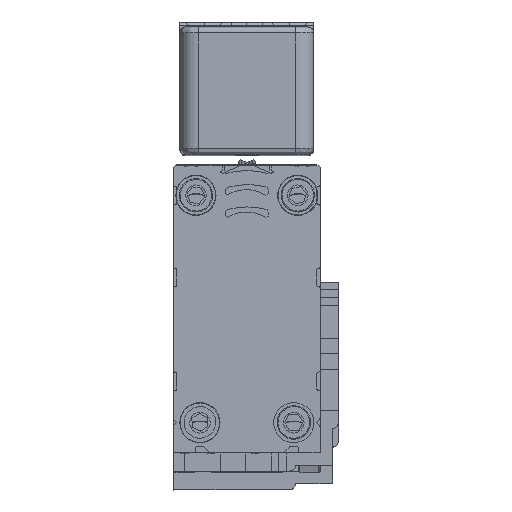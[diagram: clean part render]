
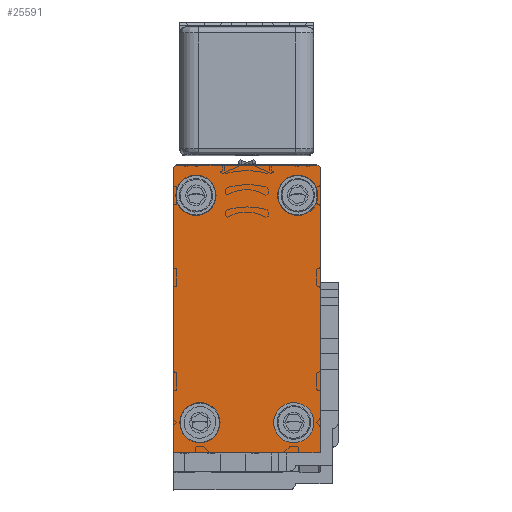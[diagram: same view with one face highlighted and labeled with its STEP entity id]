
A CAD part, top view. The second image highlights one B-rep face of the part: STEP entity #25591.
In plain terms, the highlighted planar face has unit normal (0, 0, 1).
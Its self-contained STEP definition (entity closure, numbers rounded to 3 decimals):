
#133 = CARTESIAN_POINT ( 'NONE',  ( -0.967, 21.401, 3185. ) ) ;
#134 = ORIENTED_EDGE ( 'NONE', *, *, #17795, .T. ) ;
#980 = EDGE_CURVE ( 'NONE', #23639, #25160, #4287, .T. ) ;
#1016 = EDGE_CURVE ( 'NONE', #11923, #10541, #14412, .T. ) ;
#1444 = CIRCLE ( 'NONE', #4757, 3.302 ) ;
#1457 = ORIENTED_EDGE ( 'NONE', *, *, #13294, .T. ) ;
#1537 = CARTESIAN_POINT ( 'NONE',  ( 1.676, -15.887, 3185. ) ) ;
#1599 = CARTESIAN_POINT ( 'NONE',  ( -17.514, 26.371, 3185. ) ) ;
#1848 = EDGE_LOOP ( 'NONE', ( #27638, #22432 ) ) ;
#2090 = AXIS2_PLACEMENT_3D ( 'NONE', #8884, #23949, #11049 ) ;
#2945 = CARTESIAN_POINT ( 'NONE',  ( 5.984, 25.871, 3185. ) ) ;
#2954 = ORIENTED_EDGE ( 'NONE', *, *, #10048, .T. ) ;
#2962 = CARTESIAN_POINT ( 'NONE',  ( 1.676, -15.887, 3185. ) ) ;
#3222 = VECTOR ( 'NONE', #20372, 1000. ) ;
#3712 = DIRECTION ( 'NONE',  ( -1., 0., 0. ) ) ;
#3781 = DIRECTION ( 'NONE',  ( 0., 1., 0. ) ) ;
#4032 = AXIS2_PLACEMENT_3D ( 'NONE', #23449, #10549, #25638 ) ;
#4287 = LINE ( 'NONE', #24516, #20126 ) ;
#4332 = CARTESIAN_POINT ( 'NONE',  ( 5.485, 26.371, 3185. ) ) ;
#4477 = VERTEX_POINT ( 'NONE', #10012 ) ;
#4638 = VERTEX_POINT ( 'NONE', #12721 ) ;
#4745 = ORIENTED_EDGE ( 'NONE', *, *, #22496, .T. ) ;
#4757 = AXIS2_PLACEMENT_3D ( 'NONE', #25373, #12445, #27539 ) ;
#4789 = EDGE_CURVE ( 'NONE', #21942, #26512, #20108, .T. ) ;
#4956 = CARTESIAN_POINT ( 'NONE',  ( -14.365, 21.401, 3185. ) ) ;
#5109 = CARTESIAN_POINT ( 'NONE',  ( -1.626, -15.887, 3185. ) ) ;
#5124 = DIRECTION ( 'NONE',  ( -1., 0., 0. ) ) ;
#5204 = CARTESIAN_POINT ( 'NONE',  ( 5.485, 25.871, 3185. ) ) ;
#5316 = CARTESIAN_POINT ( 'NONE',  ( 5.984, 7.11, 3185. ) ) ;
#5521 = VECTOR ( 'NONE', #3781, 1000. ) ;
#5904 = CARTESIAN_POINT ( 'NONE',  ( -17.017, -15.887, 3185. ) ) ;
#7102 = CARTESIAN_POINT ( 'NONE',  ( -10.412, -15.887, 3185. ) ) ;
#7142 = DIRECTION ( 'NONE',  ( -1., 0., 0. ) ) ;
#7364 = ORIENTED_EDGE ( 'NONE', *, *, #26500, .T. ) ;
#7366 = CARTESIAN_POINT ( 'NONE',  ( 5.984, -20.888, 3185. ) ) ;
#7376 = DIRECTION ( 'NONE',  ( 0., 1., 0. ) ) ;
#7729 = EDGE_CURVE ( 'NONE', #27658, #9530, #12205, .T. ) ;
#7857 = DIRECTION ( 'NONE',  ( 0., 0., -1. ) ) ;
#8305 = AXIS2_PLACEMENT_3D ( 'NONE', #2962, #18021, #5124 ) ;
#8791 = DIRECTION ( 'NONE',  ( -1., 0., 0. ) ) ;
#8884 = CARTESIAN_POINT ( 'NONE',  ( -13.714, -15.887, 3185. ) ) ;
#9007 = FACE_OUTER_BOUND ( 'NONE', #23100, .T. ) ;
#9144 = CARTESIAN_POINT ( 'NONE',  ( 5.485, 26.371, 3185. ) ) ;
#9163 = EDGE_CURVE ( 'NONE', #18374, #21942, #12131, .T. ) ;
#9285 = CARTESIAN_POINT ( 'NONE',  ( -17.667, 21.401, 3185. ) ) ;
#9288 = CIRCLE ( 'NONE', #20249, 3.302 ) ;
#9530 = VERTEX_POINT ( 'NONE', #20029 ) ;
#9583 = DIRECTION ( 'NONE',  ( 0., 0., -1. ) ) ;
#10012 = CARTESIAN_POINT ( 'NONE',  ( -11.063, 21.401, 3185. ) ) ;
#10048 = EDGE_CURVE ( 'NONE', #4638, #18381, #9288, .T. ) ;
#10318 = FACE_BOUND ( 'NONE', #20382, .T. ) ;
#10355 = CIRCLE ( 'NONE', #26150, 3.302 ) ;
#10382 = CIRCLE ( 'NONE', #17987, 0.5 ) ;
#10516 = VERTEX_POINT ( 'NONE', #9285 ) ;
#10541 = VERTEX_POINT ( 'NONE', #7102 ) ;
#10549 = DIRECTION ( 'NONE',  ( 0., 0., -1. ) ) ;
#10837 = CARTESIAN_POINT ( 'NONE',  ( -18.014, -20.888, 3185. ) ) ;
#11049 = DIRECTION ( 'NONE',  ( -1., 0., 0. ) ) ;
#11236 = ORIENTED_EDGE ( 'NONE', *, *, #4789, .T. ) ;
#11731 = CARTESIAN_POINT ( 'NONE',  ( 2.335, 21.401, 3185. ) ) ;
#11810 = ORIENTED_EDGE ( 'NONE', *, *, #12552, .T. ) ;
#11923 = VERTEX_POINT ( 'NONE', #5904 ) ;
#12131 = CIRCLE ( 'NONE', #19488, 0.5 ) ;
#12205 = CIRCLE ( 'NONE', #14066, 3.302 ) ;
#12445 = DIRECTION ( 'NONE',  ( 0., 0., -1. ) ) ;
#12552 = EDGE_CURVE ( 'NONE', #23426, #23639, #14046, .T. ) ;
#12721 = CARTESIAN_POINT ( 'NONE',  ( 4.978, -15.887, 3185. ) ) ;
#12824 = CARTESIAN_POINT ( 'NONE',  ( 5.984, 7.11, 3185. ) ) ;
#12990 = DIRECTION ( 'NONE',  ( -1., 0., 0. ) ) ;
#13294 = EDGE_CURVE ( 'NONE', #10541, #11923, #27477, .T. ) ;
#13366 = VECTOR ( 'NONE', #16123, 1000. ) ;
#13877 = DIRECTION ( 'NONE',  ( -1., 0., 0. ) ) ;
#14046 = LINE ( 'NONE', #18202, #13366 ) ;
#14066 = AXIS2_PLACEMENT_3D ( 'NONE', #22467, #9583, #24648 ) ;
#14379 = EDGE_CURVE ( 'NONE', #18381, #4638, #20668, .T. ) ;
#14412 = CIRCLE ( 'NONE', #4032, 3.302 ) ;
#14698 = LINE ( 'NONE', #5316, #3222 ) ;
#14707 = FACE_BOUND ( 'NONE', #27493, .T. ) ;
#15160 = AXIS2_PLACEMENT_3D ( 'NONE', #10837, #25937, #12990 ) ;
#15363 = FACE_BOUND ( 'NONE', #1848, .T. ) ;
#16123 = DIRECTION ( 'NONE',  ( 0., -1., 0. ) ) ;
#16587 = DIRECTION ( 'NONE',  ( 0., 0., -1. ) ) ;
#16670 = CARTESIAN_POINT ( 'NONE',  ( 5.984, -20.888, 3185. ) ) ;
#17795 = EDGE_CURVE ( 'NONE', #20923, #18374, #14698, .T. ) ;
#17987 = AXIS2_PLACEMENT_3D ( 'NONE', #20740, #7857, #22918 ) ;
#18021 = DIRECTION ( 'NONE',  ( 0., 0., -1. ) ) ;
#18084 = DIRECTION ( 'NONE',  ( 1., 0., 0. ) ) ;
#18202 = CARTESIAN_POINT ( 'NONE',  ( -18.014, 25.871, 3185. ) ) ;
#18366 = ORIENTED_EDGE ( 'NONE', *, *, #14379, .T. ) ;
#18374 = VERTEX_POINT ( 'NONE', #2945 ) ;
#18381 = VERTEX_POINT ( 'NONE', #5109 ) ;
#18726 = EDGE_CURVE ( 'NONE', #10516, #4477, #1444, .T. ) ;
#18944 = CARTESIAN_POINT ( 'NONE',  ( -18.014, 25.871, 3185. ) ) ;
#19488 = AXIS2_PLACEMENT_3D ( 'NONE', #5204, #20269, #7376 ) ;
#19716 = ORIENTED_EDGE ( 'NONE', *, *, #980, .T. ) ;
#20021 = DIRECTION ( 'NONE',  ( 0., 0., -1. ) ) ;
#20029 = CARTESIAN_POINT ( 'NONE',  ( 5.637, 21.401, 3185. ) ) ;
#20108 = LINE ( 'NONE', #4332, #25192 ) ;
#20126 = VECTOR ( 'NONE', #18084, 1000. ) ;
#20231 = ORIENTED_EDGE ( 'NONE', *, *, #7729, .T. ) ;
#20249 = AXIS2_PLACEMENT_3D ( 'NONE', #1537, #16587, #3712 ) ;
#20269 = DIRECTION ( 'NONE',  ( 0., 0., 1. ) ) ;
#20372 = DIRECTION ( 'NONE',  ( 0., 1., 0. ) ) ;
#20382 = EDGE_LOOP ( 'NONE', ( #20231, #4745 ) ) ;
#20420 = FACE_BOUND ( 'NONE', #24138, .T. ) ;
#20668 = CIRCLE ( 'NONE', #8305, 3.302 ) ;
#20740 = CARTESIAN_POINT ( 'NONE',  ( -17.514, 25.871, 3185. ) ) ;
#20923 = VERTEX_POINT ( 'NONE', #12824 ) ;
#21926 = ORIENTED_EDGE ( 'NONE', *, *, #9163, .T. ) ;
#21942 = VERTEX_POINT ( 'NONE', #9144 ) ;
#22008 = LINE ( 'NONE', #16670, #5521 ) ;
#22170 = CIRCLE ( 'NONE', #22861, 3.302 ) ;
#22432 = ORIENTED_EDGE ( 'NONE', *, *, #23037, .T. ) ;
#22467 = CARTESIAN_POINT ( 'NONE',  ( 2.335, 21.401, 3185. ) ) ;
#22496 = EDGE_CURVE ( 'NONE', #9530, #27658, #22170, .T. ) ;
#22665 = EDGE_CURVE ( 'NONE', #23426, #26512, #10382, .T. ) ;
#22861 = AXIS2_PLACEMENT_3D ( 'NONE', #11731, #26804, #13877 ) ;
#22918 = DIRECTION ( 'NONE',  ( 0., 1., 0. ) ) ;
#23037 = EDGE_CURVE ( 'NONE', #4477, #10516, #10355, .T. ) ;
#23100 = EDGE_LOOP ( 'NONE', ( #7364, #134, #21926, #11236, #27156, #11810, #19716 ) ) ;
#23426 = VERTEX_POINT ( 'NONE', #18944 ) ;
#23449 = CARTESIAN_POINT ( 'NONE',  ( -13.714, -15.887, 3185. ) ) ;
#23639 = VERTEX_POINT ( 'NONE', #23980 ) ;
#23949 = DIRECTION ( 'NONE',  ( 0., 0., -1. ) ) ;
#23980 = CARTESIAN_POINT ( 'NONE',  ( -18.014, -20.888, 3185. ) ) ;
#24138 = EDGE_LOOP ( 'NONE', ( #18366, #2954 ) ) ;
#24516 = CARTESIAN_POINT ( 'NONE',  ( -18.014, -20.888, 3185. ) ) ;
#24648 = DIRECTION ( 'NONE',  ( -1., 0., 0. ) ) ;
#25160 = VERTEX_POINT ( 'NONE', #7366 ) ;
#25192 = VECTOR ( 'NONE', #8791, 1000. ) ;
#25373 = CARTESIAN_POINT ( 'NONE',  ( -14.365, 21.401, 3185. ) ) ;
#25591 = ADVANCED_FACE ( 'NONE', ( #15363, #10318, #20420, #14707, #9007 ), #27999, .T. ) ;
#25638 = DIRECTION ( 'NONE',  ( -1., 0., 0. ) ) ;
#25937 = DIRECTION ( 'NONE',  ( 0., 0., 1. ) ) ;
#26150 = AXIS2_PLACEMENT_3D ( 'NONE', #4956, #20021, #7142 ) ;
#26500 = EDGE_CURVE ( 'NONE', #25160, #20923, #22008, .T. ) ;
#26512 = VERTEX_POINT ( 'NONE', #1599 ) ;
#26804 = DIRECTION ( 'NONE',  ( 0., 0., -1. ) ) ;
#27156 = ORIENTED_EDGE ( 'NONE', *, *, #22665, .F. ) ;
#27477 = CIRCLE ( 'NONE', #2090, 3.302 ) ;
#27493 = EDGE_LOOP ( 'NONE', ( #27737, #1457 ) ) ;
#27539 = DIRECTION ( 'NONE',  ( -1., 0., 0. ) ) ;
#27638 = ORIENTED_EDGE ( 'NONE', *, *, #18726, .T. ) ;
#27658 = VERTEX_POINT ( 'NONE', #133 ) ;
#27737 = ORIENTED_EDGE ( 'NONE', *, *, #1016, .T. ) ;
#27999 = PLANE ( 'NONE',  #15160 ) ;
